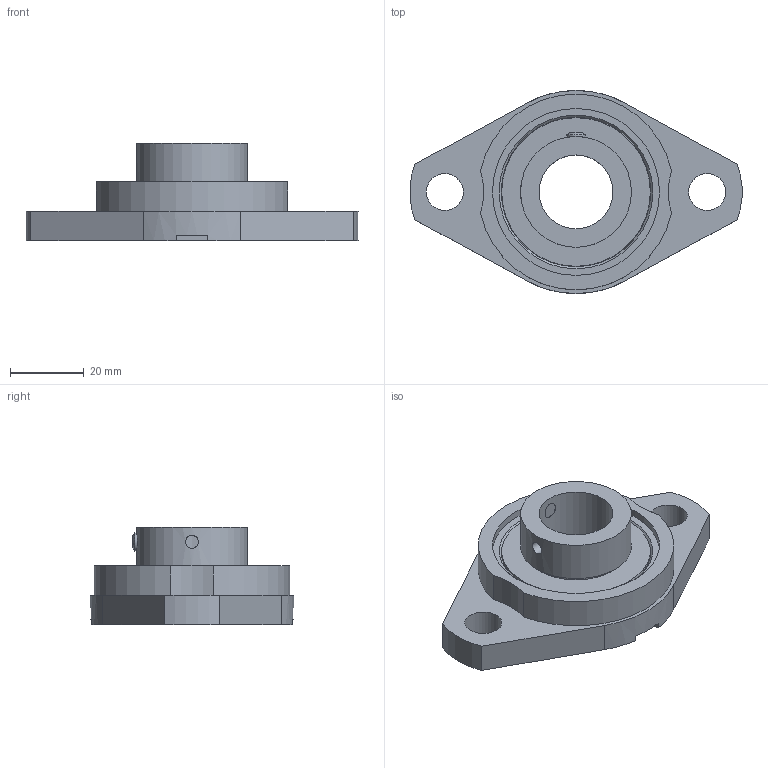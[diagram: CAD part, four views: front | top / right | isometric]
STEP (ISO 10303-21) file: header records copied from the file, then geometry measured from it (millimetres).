
FILE_DESCRIPTION((''),'2;1');
FILE_NAME('\\Ts-tgl068\j-cad-d-base\00.3DCADデータ作成フォルダ\11.エコシリーズ\MUSFL000\MUSFL004.stp','2014-11-12T09:41:38',('btec_1106_2'),(''),'Autodesk Inventor 2012','Autodesk Inventor 2012','');
FILE_SCHEMA(('AUTOMOTIVE_DESIGN { 1 0 10303 214 1 1 1 1 }'));
Length unit declared in the file: millimetre
Products named in the file (3): MUSFL000; SFL004; U004
Assembly tree (2 placements, depth 2):
  MUSFL000
    SFL004
    U004
Bounding box: 89.89 x 55 x 26.5 mm (x, y, z)
Volume: 36732.3 mm3; surface area: 16129.6 mm2
Topology: 2 solids, 2 shells, 74 faces, 188 edges, 123 vertices
Faces by surface type: plane 39, cylinder 30, cone 3, sphere 2
Full cylindrical faces by diameter (mm): 3.5 x1, 5 x1, 10 x2, 20 x1, 27 x1, 30 x1, 45.2 x1
Entity records: 2338 total; most frequent: CARTESIAN_POINT 497, DIRECTION 386, ORIENTED_EDGE 334, EDGE_CURVE 167, AXIS2_PLACEMENT_3D 146, VERTEX_POINT 117, EDGE_LOOP 104, VECTOR 94
